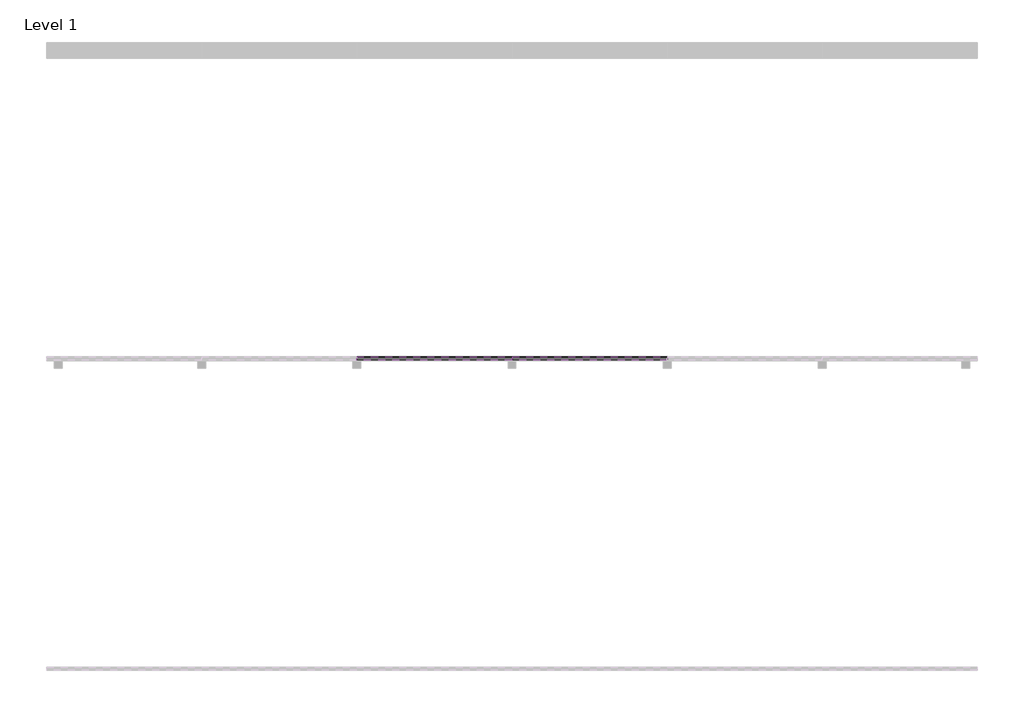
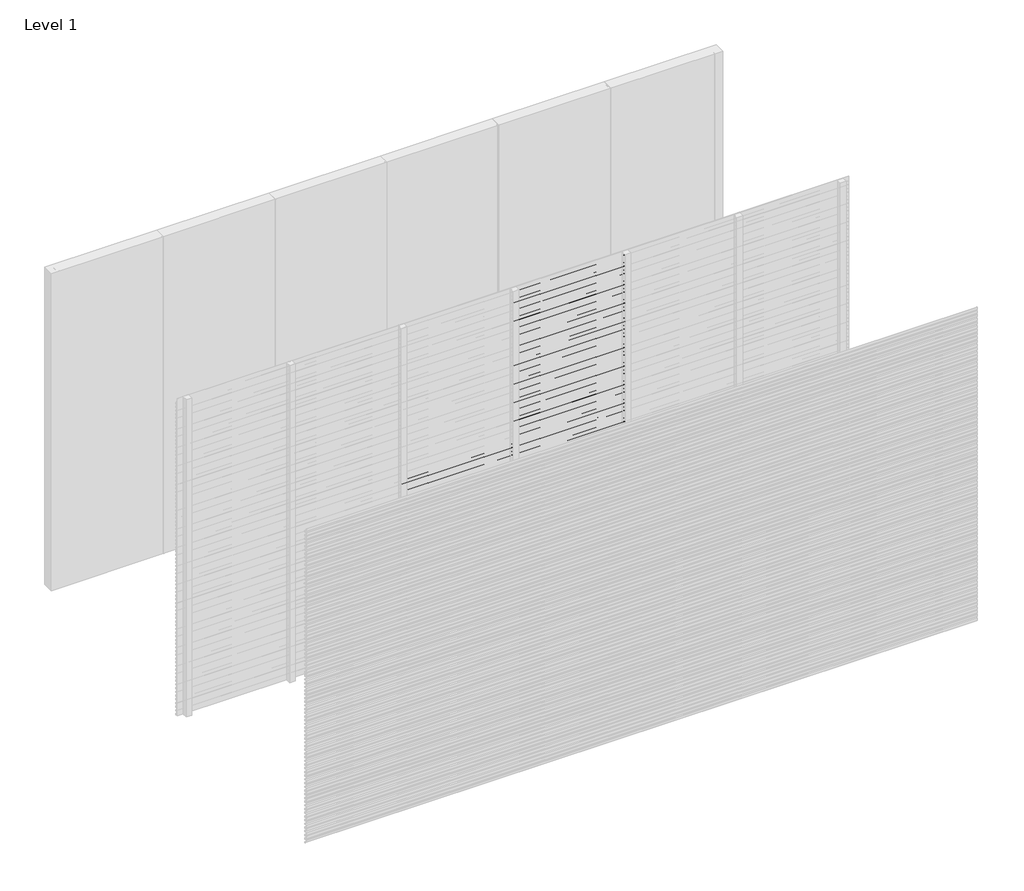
# One storey, part 11 of 25: 97 proxies.
"""IFC4 building model written with IfcOpenShell, lengths in millimetres."""

import ifcopenshell
import ifcopenshell.guid

model = None  # the IFC model being written
_history = None  # IfcOwnerHistory: only IFC2X3 demands one
_inside = {}  # id of a spatial element -> (the spatial element, [elements in it])
_under = {}  # id of a project, library or spatial element -> (it, [spatial elements below it])
_declared = {}  # id of a project -> (the project, [libraries it declares])
_typed = {}  # id of a type object -> (the type object, [elements of that type])
_made_of = {}  # id of a material, layer set ... -> (it, [elements and type objects made of it])


def new_model(schema):
    """Start an empty IFC model of exactly this schema.

    Asked for "IFC4X3", IfcOpenShell would pick the latest addendum, in which some entities
    have other attributes; the version numbers below select the first issue.
    IFC2X3 requires an IfcOwnerHistory on every rooted entity: one is made here for all.
    """
    global model, _history
    if schema == "IFC4X3":
        model = ifcopenshell.file(schema_version=(4, 3, 0, 0))
    else:
        model = ifcopenshell.file(schema=schema)
    _inside.clear()
    _under.clear()
    _declared.clear()
    _typed.clear()
    _made_of.clear()
    _history = None
    if model.schema == "IFC2X3":
        org = make("IfcOrganization", Name="unknown")
        user = make(
            "IfcPersonAndOrganization",
            ThePerson=make("IfcPerson", FamilyName="unknown"),
            TheOrganization=org,
        )
        app = make(
            "IfcApplication",
            ApplicationDeveloper=org,
            Version="unknown",
            ApplicationFullName="unknown",
            ApplicationIdentifier="unknown",
        )
        _history = make(
            "IfcOwnerHistory",
            OwningUser=user,
            OwningApplication=app,
            ChangeAction="ADDED",
            CreationDate=0,
        )
    return model


def make(cls, **values):
    """One entity of the class cls with the attributes given. An attribute that is None is left unset."""
    return model.create_entity(
        cls, **{name: value for name, value in values.items() if value is not None}
    )


def rooted(cls, **values):
    """An entity with a GlobalId (a new one), such as an element, a storey or a relation."""
    return make(cls, GlobalId=ifcopenshell.guid.new(), OwnerHistory=_history, **values)


def si_unit(unit_type, name, prefix=None):
    """IfcSIUnit, for example si_unit("LENGTHUNIT", "METRE", prefix="MILLI")."""
    return make("IfcSIUnit", UnitType=unit_type, Prefix=prefix, Name=name)


def assignment(units):
    """IfcUnitAssignment: the units of a project."""
    return None if units is None else make("IfcUnitAssignment", Units=units)


def point(xyz):
    """IfcCartesianPoint."""
    return None if xyz is None else make("IfcCartesianPoint", Coordinates=xyz)


def direction(xyz):
    """IfcDirection."""
    return None if xyz is None else make("IfcDirection", DirectionRatios=xyz)


def frame(location, z_axis=None, x_axis=None):
    """IfcAxis2Placement3D, a coordinate frame: its origin and axes. An axis left out is left unset."""
    return make(
        "IfcAxis2Placement3D",
        Location=point(location),
        Axis=direction(z_axis),
        RefDirection=direction(x_axis),
    )


def origin():
    """The frame at (0, 0, 0) with its axes left unset."""
    return frame((0.0, 0.0, 0.0))


def place(relative_to, where):
    """IfcLocalPlacement: puts the frame where relative to a parent placement (None: the world)."""
    return make(
        "IfcLocalPlacement", PlacementRelTo=relative_to, RelativePlacement=where
    )


def context(
    kind, dimensions, precision=None, world=None, true_north=None, identifier=None
):
    """IfcGeometricRepresentationContext, for example the 3D "Model" context."""
    return make(
        "IfcGeometricRepresentationContext",
        ContextIdentifier=identifier,
        ContextType=kind,
        CoordinateSpaceDimension=dimensions,
        Precision=precision,
        WorldCoordinateSystem=world,
        TrueNorth=true_north,
    )


def project(units=None, contexts=None):
    """IfcProject with its units and contexts."""
    return rooted(
        "IfcProject",
        Name="project",
        RepresentationContexts=contexts,
        UnitsInContext=assignment(units),
    )


def spatial(cls, under=None, at=None, **own):
    """A site, building, storey or space (cls), placed at a placement, below another one or the project."""
    s = rooted(cls, ObjectPlacement=at, **own)
    if under is not None:
        _under.setdefault(under.id(), (under, []))[1].append(s)
    return s


def polyline(points):
    """IfcPolyline through the points."""
    return make("IfcPolyline", Points=[point(p) for p in points])


def outline(outer, holes=None, kind="AREA"):
    """IfcArbitraryClosedProfileDef: a profile drawn as a closed curve; with holes, ...WithVoids."""
    if holes is None:
        return make("IfcArbitraryClosedProfileDef", ProfileType=kind, OuterCurve=outer)
    return make(
        "IfcArbitraryProfileDefWithVoids",
        ProfileType=kind,
        OuterCurve=outer,
        InnerCurves=holes,
    )


def extrude(swept, where, along, depth):
    """IfcExtrudedAreaSolid: the profile swept, set in the frame where, extruded along a direction by depth."""
    return make(
        "IfcExtrudedAreaSolid",
        SweptArea=swept,
        Position=where,
        ExtrudedDirection=direction(along),
        Depth=depth,
    )


def shape(context_of_items, identifier, shape_type, items):
    """IfcShapeRepresentation: the items that make up one representation, for example the "Body"."""
    return make(
        "IfcShapeRepresentation",
        ContextOfItems=context_of_items,
        RepresentationIdentifier=identifier,
        RepresentationType=shape_type,
        Items=items,
    )


def made_of(thing, what):
    """Note that an element or type object is made of a material, layer set ...; save() writes the relation."""
    if what is not None:
        _made_of.setdefault(what.id(), (what, []))[1].append(thing)
    return thing


def element(
    cls,
    number,
    at=None,
    inside=None,
    cuts=None,
    type_object=None,
    material=None,
    context=None,
    identifier="Body",
    shape_type=None,
    held_by="IfcProductDefinitionShape",
    body=None,
    shapes=None,
    **own,
):
    """One element of the class cls, such as IfcWall. Its Tag is "e" and its number.

    at: its placement. inside: the storey or other place that contains it. cuts: it is an
    opening in that element (IfcRelVoidsElement). A single representation is given by context,
    identifier, shape_type and body (its items); several are given by shapes. held_by: the class
    of the entity that holds the representations. save() writes the other relations.
    """
    e = rooted(cls, Tag="e%d" % number, ObjectPlacement=at, **own)
    if body is not None:
        shapes = [shape(context, identifier, shape_type, body)]
    if shapes is not None:
        e.Representation = make(held_by, Representations=shapes)
    if inside is not None:
        _inside.setdefault(inside.id(), (inside, []))[1].append(e)
    if cuts is not None:
        rooted(
            "IfcRelVoidsElement", RelatingBuildingElement=cuts, RelatedOpeningElement=e
        )
    if type_object is not None:
        _typed.setdefault(type_object.id(), (type_object, []))[1].append(e)
    return made_of(e, material)


def aggregate(whole, parts):
    """IfcRelAggregates: a whole, such as a stair, and the parts it consists of."""
    return rooted("IfcRelAggregates", RelatingObject=whole, RelatedObjects=parts)


def save(model, path):
    """Write the relations noted so far, then the file.

    IfcRelAggregates (storeys below a building ...), IfcRelContainedInSpatialStructure (elements
    in a storey), IfcRelDefinesByType, IfcRelAssociatesMaterial and IfcRelDeclares: one each for
    every whole, place, type object, material and project.
    """
    for whole, parts in _under.values():
        aggregate(whole, parts)
    for where, things in _inside.values():
        rooted(
            "IfcRelContainedInSpatialStructure",
            RelatedElements=things,
            RelatingStructure=where,
        )
    for kind, things in _typed.values():
        rooted("IfcRelDefinesByType", RelatedObjects=things, RelatingType=kind)
    for what, things in _made_of.values():
        rooted("IfcRelAssociatesMaterial", RelatedObjects=things, RelatingMaterial=what)
    for by, libraries in _declared.values():
        rooted("IfcRelDeclares", RelatingContext=by, RelatedDefinitions=libraries)
    model.write(path)


model = new_model("IFC4")

# Units and contexts
model_context = context("Model", 3, world=origin())
ifc_project = project(units=[si_unit("LENGTHUNIT", "METRE", prefix="MILLI")], contexts=[model_context])

# Site, building, storey
site = spatial("IfcSite", under=ifc_project)
building = spatial("IfcBuilding", under=site)
storey = spatial("IfcBuildingStorey", under=building, Name="Level 1", Elevation=0.0)

# Proxies
placement = place(None, origin())
element("IfcBuildingElementProxy", 1, Name="Wall Sweeps", at=placement, inside=storey, context=model_context, shape_type="SweptSolid", body=[
    extrude(outline(polyline([(-11995.0, 1540.0), (-11995.0, 1528.942893), (-11976.0, 1513.0), (-11976.0, 1500.0), (-11997.0, 1517.6210923), (-11997.0, 1540.0), (-11995.0, 1540.0)])), frame((2000.0, 0.0, 0.0), z_axis=(1.0, 0.0, 0.0), x_axis=(0.0, 1.0, 0.0)), (0.0, 0.0, 1.0), 1000.0),
])
element("IfcBuildingElementProxy", 2, Name="Wall Sweeps", at=placement, inside=storey, context=model_context, shape_type="SweptSolid", body=[
    extrude(outline(polyline([(-11995.0, 1505.0), (-11995.0, 1493.942893), (-11976.0, 1478.0), (-11976.0, 1465.0), (-11997.0, 1482.6210923), (-11997.0, 1505.0), (-11995.0, 1505.0)])), frame((2000.0, 0.0, 0.0), z_axis=(1.0, 0.0, 0.0), x_axis=(0.0, 1.0, 0.0)), (0.0, 0.0, 1.0), 1000.0),
])
element("IfcBuildingElementProxy", 3, Name="Wall Sweeps", at=placement, inside=storey, context=model_context, shape_type="SweptSolid", body=[
    extrude(outline(polyline([(-11995.0, 1470.0), (-11995.0, 1458.942893), (-11976.0, 1443.0), (-11976.0, 1430.0), (-11997.0, 1447.6210923), (-11997.0, 1470.0), (-11995.0, 1470.0)])), frame((2000.0, 0.0, 0.0), z_axis=(1.0, 0.0, 0.0), x_axis=(0.0, 1.0, 0.0)), (0.0, 0.0, 1.0), 1000.0),
])
element("IfcBuildingElementProxy", 4, Name="Wall Sweeps", at=placement, inside=storey, context=model_context, shape_type="SweptSolid", body=[
    extrude(outline(polyline([(-11995.0, 1435.0), (-11995.0, 1423.942893), (-11976.0, 1408.0), (-11976.0, 1395.0), (-11997.0, 1412.6210923), (-11997.0, 1435.0), (-11995.0, 1435.0)])), frame((2000.0, 0.0, 0.0), z_axis=(1.0, 0.0, 0.0), x_axis=(0.0, 1.0, 0.0)), (0.0, 0.0, 1.0), 1000.0),
])
element("IfcBuildingElementProxy", 5, Name="Wall Sweeps", at=placement, inside=storey, context=model_context, shape_type="SweptSolid", body=[
    extrude(outline(polyline([(-11995.0, 1400.0), (-11995.0, 1388.942893), (-11976.0, 1373.0), (-11976.0, 1360.0), (-11997.0, 1377.6210923), (-11997.0, 1400.0), (-11995.0, 1400.0)])), frame((2000.0, 0.0, 0.0), z_axis=(1.0, 0.0, 0.0), x_axis=(0.0, 1.0, 0.0)), (0.0, 0.0, 1.0), 1000.0),
])
element("IfcBuildingElementProxy", 6, Name="Wall Sweeps", at=placement, inside=storey, context=model_context, shape_type="SweptSolid", body=[
    extrude(outline(polyline([(-11995.0, 1365.0), (-11995.0, 1353.942893), (-11976.0, 1338.0), (-11976.0, 1325.0), (-11997.0, 1342.6210923), (-11997.0, 1365.0), (-11995.0, 1365.0)])), frame((2000.0, 0.0, 0.0), z_axis=(1.0, 0.0, 0.0), x_axis=(0.0, 1.0, 0.0)), (0.0, 0.0, 1.0), 1000.0),
])
element("IfcBuildingElementProxy", 7, Name="Wall Sweeps", at=placement, inside=storey, context=model_context, shape_type="SweptSolid", body=[
    extrude(outline(polyline([(-11995.0, 1330.0), (-11995.0, 1318.942893), (-11976.0, 1303.0), (-11976.0, 1290.0), (-11997.0, 1307.6210923), (-11997.0, 1330.0), (-11995.0, 1330.0)])), frame((2000.0, 0.0, 0.0), z_axis=(1.0, 0.0, 0.0), x_axis=(0.0, 1.0, 0.0)), (0.0, 0.0, 1.0), 1000.0),
])
element("IfcBuildingElementProxy", 8, Name="Wall Sweeps", at=placement, inside=storey, context=model_context, shape_type="SweptSolid", body=[
    extrude(outline(polyline([(-11995.0, 1295.0), (-11995.0, 1283.942893), (-11976.0, 1268.0), (-11976.0, 1255.0), (-11997.0, 1272.6210923), (-11997.0, 1295.0), (-11995.0, 1295.0)])), frame((2000.0, 0.0, 0.0), z_axis=(1.0, 0.0, 0.0), x_axis=(0.0, 1.0, 0.0)), (0.0, 0.0, 1.0), 1000.0),
])
element("IfcBuildingElementProxy", 9, Name="Wall Sweeps", at=placement, inside=storey, context=model_context, shape_type="SweptSolid", body=[
    extrude(outline(polyline([(-11995.0, 1260.0), (-11995.0, 1248.942893), (-11976.0, 1233.0), (-11976.0, 1220.0), (-11997.0, 1237.6210923), (-11997.0, 1260.0), (-11995.0, 1260.0)])), frame((2000.0, 0.0, 0.0), z_axis=(1.0, 0.0, 0.0), x_axis=(0.0, 1.0, 0.0)), (0.0, 0.0, 1.0), 1000.0),
])
element("IfcBuildingElementProxy", 10, Name="Wall Sweeps", at=placement, inside=storey, context=model_context, shape_type="SweptSolid", body=[
    extrude(outline(polyline([(-11995.0, 1225.0), (-11995.0, 1213.942893), (-11976.0, 1198.0), (-11976.0, 1185.0), (-11997.0, 1202.6210923), (-11997.0, 1225.0), (-11995.0, 1225.0)])), frame((2000.0, 0.0, 0.0), z_axis=(1.0, 0.0, 0.0), x_axis=(0.0, 1.0, 0.0)), (0.0, 0.0, 1.0), 1000.0),
])
element("IfcBuildingElementProxy", 11, Name="Wall Sweeps", at=placement, inside=storey, context=model_context, shape_type="SweptSolid", body=[
    extrude(outline(polyline([(-11995.0, 1190.0), (-11995.0, 1178.942893), (-11976.0, 1163.0), (-11976.0, 1150.0), (-11997.0, 1167.6210923), (-11997.0, 1190.0), (-11995.0, 1190.0)])), frame((2000.0, 0.0, 0.0), z_axis=(1.0, 0.0, 0.0), x_axis=(0.0, 1.0, 0.0)), (0.0, 0.0, 1.0), 1000.0),
])
element("IfcBuildingElementProxy", 12, Name="Wall Sweeps", at=placement, inside=storey, context=model_context, shape_type="SweptSolid", body=[
    extrude(outline(polyline([(-11995.0, 1155.0), (-11995.0, 1143.942893), (-11976.0, 1128.0), (-11976.0, 1115.0), (-11997.0, 1132.6210923), (-11997.0, 1155.0), (-11995.0, 1155.0)])), frame((2000.0, 0.0, 0.0), z_axis=(1.0, 0.0, 0.0), x_axis=(0.0, 1.0, 0.0)), (0.0, 0.0, 1.0), 1000.0),
])
element("IfcBuildingElementProxy", 13, Name="Wall Sweeps", at=placement, inside=storey, context=model_context, shape_type="SweptSolid", body=[
    extrude(outline(polyline([(-11995.0, 1120.0), (-11995.0, 1108.942893), (-11976.0, 1093.0), (-11976.0, 1080.0), (-11997.0, 1097.6210923), (-11997.0, 1120.0), (-11995.0, 1120.0)])), frame((2000.0, 0.0, 0.0), z_axis=(1.0, 0.0, 0.0), x_axis=(0.0, 1.0, 0.0)), (0.0, 0.0, 1.0), 1000.0),
])
element("IfcBuildingElementProxy", 14, Name="Wall Sweeps", at=placement, inside=storey, context=model_context, shape_type="SweptSolid", body=[
    extrude(outline(polyline([(-11995.0, 1085.0), (-11995.0, 1073.942893), (-11976.0, 1058.0), (-11976.0, 1045.0), (-11997.0, 1062.6210923), (-11997.0, 1085.0), (-11995.0, 1085.0)])), frame((2000.0, 0.0, 0.0), z_axis=(1.0, 0.0, 0.0), x_axis=(0.0, 1.0, 0.0)), (0.0, 0.0, 1.0), 1000.0),
])
element("IfcBuildingElementProxy", 15, Name="Wall Sweeps", at=placement, inside=storey, context=model_context, shape_type="SweptSolid", body=[
    extrude(outline(polyline([(-11995.0, 1050.0), (-11995.0, 1038.942893), (-11976.0, 1023.0), (-11976.0, 1010.0), (-11997.0, 1027.6210923), (-11997.0, 1050.0), (-11995.0, 1050.0)])), frame((2000.0, 0.0, 0.0), z_axis=(1.0, 0.0, 0.0), x_axis=(0.0, 1.0, 0.0)), (0.0, 0.0, 1.0), 1000.0),
])
element("IfcBuildingElementProxy", 16, Name="Wall Sweeps", at=placement, inside=storey, context=model_context, shape_type="SweptSolid", body=[
    extrude(outline(polyline([(-11995.0, 1015.0), (-11995.0, 1003.942893), (-11976.0, 988.0), (-11976.0, 975.0), (-11997.0, 992.6210923), (-11997.0, 1015.0), (-11995.0, 1015.0)])), frame((2000.0, 0.0, 0.0), z_axis=(1.0, 0.0, 0.0), x_axis=(0.0, 1.0, 0.0)), (0.0, 0.0, 1.0), 1000.0),
])
element("IfcBuildingElementProxy", 17, Name="Wall Sweeps", at=placement, inside=storey, context=model_context, shape_type="SweptSolid", body=[
    extrude(outline(polyline([(-11995.0, 980.0), (-11995.0, 968.942893), (-11976.0, 953.0), (-11976.0, 940.0), (-11997.0, 957.6210923), (-11997.0, 980.0), (-11995.0, 980.0)])), frame((2000.0, 0.0, 0.0), z_axis=(1.0, 0.0, 0.0), x_axis=(0.0, 1.0, 0.0)), (0.0, 0.0, 1.0), 1000.0),
])
element("IfcBuildingElementProxy", 18, Name="Wall Sweeps", at=placement, inside=storey, context=model_context, shape_type="SweptSolid", body=[
    extrude(outline(polyline([(-11995.0, 945.0), (-11995.0, 933.942893), (-11976.0, 918.0), (-11976.0, 905.0), (-11997.0, 922.6210923), (-11997.0, 945.0), (-11995.0, 945.0)])), frame((2000.0, 0.0, 0.0), z_axis=(1.0, 0.0, 0.0), x_axis=(0.0, 1.0, 0.0)), (0.0, 0.0, 1.0), 1000.0),
])
element("IfcBuildingElementProxy", 19, Name="Wall Sweeps", at=placement, inside=storey, context=model_context, shape_type="SweptSolid", body=[
    extrude(outline(polyline([(-11995.0, 910.0), (-11995.0, 898.942893), (-11976.0, 883.0), (-11976.0, 870.0), (-11997.0, 887.6210923), (-11997.0, 910.0), (-11995.0, 910.0)])), frame((2000.0, 0.0, 0.0), z_axis=(1.0, 0.0, 0.0), x_axis=(0.0, 1.0, 0.0)), (0.0, 0.0, 1.0), 1000.0),
])
element("IfcBuildingElementProxy", 20, Name="Wall Sweeps", at=placement, inside=storey, context=model_context, shape_type="SweptSolid", body=[
    extrude(outline(polyline([(-11995.0, 875.0), (-11995.0, 863.942893), (-11976.0, 848.0), (-11976.0, 835.0), (-11997.0, 852.6210923), (-11997.0, 875.0), (-11995.0, 875.0)])), frame((2000.0, 0.0, 0.0), z_axis=(1.0, 0.0, 0.0), x_axis=(0.0, 1.0, 0.0)), (0.0, 0.0, 1.0), 1000.0),
])
element("IfcBuildingElementProxy", 21, Name="Wall Sweeps", at=placement, inside=storey, context=model_context, shape_type="SweptSolid", body=[
    extrude(outline(polyline([(-11995.0, 840.0), (-11995.0, 828.942893), (-11976.0, 813.0), (-11976.0, 800.0), (-11997.0, 817.6210923), (-11997.0, 840.0), (-11995.0, 840.0)])), frame((2000.0, 0.0, 0.0), z_axis=(1.0, 0.0, 0.0), x_axis=(0.0, 1.0, 0.0)), (0.0, 0.0, 1.0), 1000.0),
])
element("IfcBuildingElementProxy", 22, Name="Wall Sweeps", at=placement, inside=storey, context=model_context, shape_type="SweptSolid", body=[
    extrude(outline(polyline([(-11995.0, 805.0), (-11995.0, 793.942893), (-11976.0, 778.0), (-11976.0, 765.0), (-11997.0, 782.6210923), (-11997.0, 805.0), (-11995.0, 805.0)])), frame((2000.0, 0.0, 0.0), z_axis=(1.0, 0.0, 0.0), x_axis=(0.0, 1.0, 0.0)), (0.0, 0.0, 1.0), 1000.0),
])
element("IfcBuildingElementProxy", 23, Name="Wall Sweeps", at=placement, inside=storey, context=model_context, shape_type="SweptSolid", body=[
    extrude(outline(polyline([(-11995.0, 770.0), (-11995.0, 758.942893), (-11976.0, 743.0), (-11976.0, 730.0), (-11997.0, 747.6210923), (-11997.0, 770.0), (-11995.0, 770.0)])), frame((2000.0, 0.0, 0.0), z_axis=(1.0, 0.0, 0.0), x_axis=(0.0, 1.0, 0.0)), (0.0, 0.0, 1.0), 1000.0),
])
element("IfcBuildingElementProxy", 24, Name="Wall Sweeps", at=placement, inside=storey, context=model_context, shape_type="SweptSolid", body=[
    extrude(outline(polyline([(-11995.0, 735.0), (-11995.0, 723.942893), (-11976.0, 708.0), (-11976.0, 695.0), (-11997.0, 712.6210923), (-11997.0, 735.0), (-11995.0, 735.0)])), frame((2000.0, 0.0, 0.0), z_axis=(1.0, 0.0, 0.0), x_axis=(0.0, 1.0, 0.0)), (0.0, 0.0, 1.0), 1000.0),
])
element("IfcBuildingElementProxy", 25, Name="Wall Sweeps", at=placement, inside=storey, context=model_context, shape_type="SweptSolid", body=[
    extrude(outline(polyline([(-11995.0, 700.0), (-11995.0, 688.942893), (-11976.0, 673.0), (-11976.0, 660.0), (-11997.0, 677.6210923), (-11997.0, 700.0), (-11995.0, 700.0)])), frame((2000.0, 0.0, 0.0), z_axis=(1.0, 0.0, 0.0), x_axis=(0.0, 1.0, 0.0)), (0.0, 0.0, 1.0), 1000.0),
])
element("IfcBuildingElementProxy", 26, Name="Wall Sweeps", at=placement, inside=storey, context=model_context, shape_type="SweptSolid", body=[
    extrude(outline(polyline([(-11995.0, 665.0), (-11995.0, 653.942893), (-11976.0, 638.0), (-11976.0, 625.0), (-11997.0, 642.6210923), (-11997.0, 665.0), (-11995.0, 665.0)])), frame((2000.0, 0.0, 0.0), z_axis=(1.0, 0.0, 0.0), x_axis=(0.0, 1.0, 0.0)), (0.0, 0.0, 1.0), 1000.0),
])
element("IfcBuildingElementProxy", 27, Name="Wall Sweeps", at=placement, inside=storey, context=model_context, shape_type="SweptSolid", body=[
    extrude(outline(polyline([(-11995.0, 630.0), (-11995.0, 618.942893), (-11976.0, 603.0), (-11976.0, 590.0), (-11997.0, 607.6210923), (-11997.0, 630.0), (-11995.0, 630.0)])), frame((2000.0, 0.0, 0.0), z_axis=(1.0, 0.0, 0.0), x_axis=(0.0, 1.0, 0.0)), (0.0, 0.0, 1.0), 1000.0),
])
element("IfcBuildingElementProxy", 28, Name="Wall Sweeps", at=placement, inside=storey, context=model_context, shape_type="SweptSolid", body=[
    extrude(outline(polyline([(-11995.0, 595.0), (-11995.0, 583.942893), (-11976.0, 568.0), (-11976.0, 555.0), (-11997.0, 572.6210923), (-11997.0, 595.0), (-11995.0, 595.0)])), frame((2000.0, 0.0, 0.0), z_axis=(1.0, 0.0, 0.0), x_axis=(0.0, 1.0, 0.0)), (0.0, 0.0, 1.0), 1000.0),
])
element("IfcBuildingElementProxy", 29, Name="Wall Sweeps", at=placement, inside=storey, context=model_context, shape_type="SweptSolid", body=[
    extrude(outline(polyline([(-11995.0, 560.0), (-11995.0, 548.942893), (-11976.0, 533.0), (-11976.0, 520.0), (-11997.0, 537.6210923), (-11997.0, 560.0), (-11995.0, 560.0)])), frame((2000.0, 0.0, 0.0), z_axis=(1.0, 0.0, 0.0), x_axis=(0.0, 1.0, 0.0)), (0.0, 0.0, 1.0), 1000.0),
])
element("IfcBuildingElementProxy", 30, Name="Wall Sweeps", at=placement, inside=storey, context=model_context, shape_type="SweptSolid", body=[
    extrude(outline(polyline([(-11995.0, 525.0), (-11995.0, 513.942893), (-11976.0, 498.0), (-11976.0, 485.0), (-11997.0, 502.6210923), (-11997.0, 525.0), (-11995.0, 525.0)])), frame((2000.0, 0.0, 0.0), z_axis=(1.0, 0.0, 0.0), x_axis=(0.0, 1.0, 0.0)), (0.0, 0.0, 1.0), 1000.0),
])
element("IfcBuildingElementProxy", 31, Name="Wall Sweeps", at=placement, inside=storey, context=model_context, shape_type="SweptSolid", body=[
    extrude(outline(polyline([(-11995.0, 490.0), (-11995.0, 478.942893), (-11976.0, 463.0), (-11976.0, 450.0), (-11997.0, 467.6210923), (-11997.0, 490.0), (-11995.0, 490.0)])), frame((2000.0, 0.0, 0.0), z_axis=(1.0, 0.0, 0.0), x_axis=(0.0, 1.0, 0.0)), (0.0, 0.0, 1.0), 1000.0),
])
element("IfcBuildingElementProxy", 32, Name="Wall Sweeps", at=placement, inside=storey, context=model_context, shape_type="SweptSolid", body=[
    extrude(outline(polyline([(-11995.0, 455.0), (-11995.0, 443.942893), (-11976.0, 428.0), (-11976.0, 415.0), (-11997.0, 432.6210923), (-11997.0, 455.0), (-11995.0, 455.0)])), frame((2000.0, 0.0, 0.0), z_axis=(1.0, 0.0, 0.0), x_axis=(0.0, 1.0, 0.0)), (0.0, 0.0, 1.0), 1000.0),
])
element("IfcBuildingElementProxy", 33, Name="Wall Sweeps", at=placement, inside=storey, context=model_context, shape_type="SweptSolid", body=[
    extrude(outline(polyline([(-11995.0, 420.0), (-11995.0, 408.942893), (-11976.0, 393.0), (-11976.0, 380.0), (-11997.0, 397.6210923), (-11997.0, 420.0), (-11995.0, 420.0)])), frame((2000.0, 0.0, 0.0), z_axis=(1.0, 0.0, 0.0), x_axis=(0.0, 1.0, 0.0)), (0.0, 0.0, 1.0), 1000.0),
])
element("IfcBuildingElementProxy", 34, Name="Wall Sweeps", at=placement, inside=storey, context=model_context, shape_type="SweptSolid", body=[
    extrude(outline(polyline([(-11995.0, 385.0), (-11995.0, 373.942893), (-11976.0, 358.0), (-11976.0, 345.0), (-11997.0, 362.6210923), (-11997.0, 385.0), (-11995.0, 385.0)])), frame((2000.0, 0.0, 0.0), z_axis=(1.0, 0.0, 0.0), x_axis=(0.0, 1.0, 0.0)), (0.0, 0.0, 1.0), 1000.0),
])
element("IfcBuildingElementProxy", 35, Name="Wall Sweeps", at=placement, inside=storey, context=model_context, shape_type="SweptSolid", body=[
    extrude(outline(polyline([(-11995.0, 350.0), (-11995.0, 338.942893), (-11976.0, 323.0), (-11976.0, 310.0), (-11997.0, 327.6210923), (-11997.0, 350.0), (-11995.0, 350.0)])), frame((2000.0, 0.0, 0.0), z_axis=(1.0, 0.0, 0.0), x_axis=(0.0, 1.0, 0.0)), (0.0, 0.0, 1.0), 1000.0),
])
element("IfcBuildingElementProxy", 36, Name="Wall Sweeps", at=placement, inside=storey, context=model_context, shape_type="SweptSolid", body=[
    extrude(outline(polyline([(-11995.0, 315.0), (-11995.0, 303.942893), (-11976.0, 288.0), (-11976.0, 275.0), (-11997.0, 292.6210923), (-11997.0, 315.0), (-11995.0, 315.0)])), frame((2000.0, 0.0, 0.0), z_axis=(1.0, 0.0, 0.0), x_axis=(0.0, 1.0, 0.0)), (0.0, 0.0, 1.0), 1000.0),
])
element("IfcBuildingElementProxy", 37, Name="Wall Sweeps", at=placement, inside=storey, context=model_context, shape_type="SweptSolid", body=[
    extrude(outline(polyline([(-11995.0, 280.0), (-11995.0, 268.942893), (-11976.0, 253.0), (-11976.0, 240.0), (-11997.0, 257.6210923), (-11997.0, 280.0), (-11995.0, 280.0)])), frame((2000.0, 0.0, 0.0), z_axis=(1.0, 0.0, 0.0), x_axis=(0.0, 1.0, 0.0)), (0.0, 0.0, 1.0), 1000.0),
])
element("IfcBuildingElementProxy", 38, Name="Wall Sweeps", at=placement, inside=storey, context=model_context, shape_type="SweptSolid", body=[
    extrude(outline(polyline([(-11995.0, 245.0), (-11995.0, 233.942893), (-11976.0, 218.0), (-11976.0, 205.0), (-11997.0, 222.6210923), (-11997.0, 245.0), (-11995.0, 245.0)])), frame((2000.0, 0.0, 0.0), z_axis=(1.0, 0.0, 0.0), x_axis=(0.0, 1.0, 0.0)), (0.0, 0.0, 1.0), 1000.0),
])
element("IfcBuildingElementProxy", 39, Name="Wall Sweeps", at=placement, inside=storey, context=model_context, shape_type="SweptSolid", body=[
    extrude(outline(polyline([(-11995.0, 210.0), (-11995.0, 198.942893), (-11976.0, 183.0), (-11976.0, 170.0), (-11997.0, 187.6210923), (-11997.0, 210.0), (-11995.0, 210.0)])), frame((2000.0, 0.0, 0.0), z_axis=(1.0, 0.0, 0.0), x_axis=(0.0, 1.0, 0.0)), (0.0, 0.0, 1.0), 1000.0),
])
element("IfcBuildingElementProxy", 40, Name="Wall Sweeps", at=placement, inside=storey, context=model_context, shape_type="SweptSolid", body=[
    extrude(outline(polyline([(-11995.0, 175.0), (-11995.0, 163.942893), (-11976.0, 148.0), (-11976.0, 135.0), (-11997.0, 152.6210923), (-11997.0, 175.0), (-11995.0, 175.0)])), frame((2000.0, 0.0, 0.0), z_axis=(1.0, 0.0, 0.0), x_axis=(0.0, 1.0, 0.0)), (0.0, 0.0, 1.0), 1000.0),
])
element("IfcBuildingElementProxy", 41, Name="Wall Sweeps", at=placement, inside=storey, context=model_context, shape_type="SweptSolid", body=[
    extrude(outline(polyline([(-11995.0, 140.0), (-11995.0, 128.942893), (-11976.0, 113.0), (-11976.0, 100.0), (-11997.0, 117.6210923), (-11997.0, 140.0), (-11995.0, 140.0)])), frame((2000.0, 0.0, 0.0), z_axis=(1.0, 0.0, 0.0), x_axis=(0.0, 1.0, 0.0)), (0.0, 0.0, 1.0), 1000.0),
])
element("IfcBuildingElementProxy", 42, Name="Wall Sweeps", at=placement, inside=storey, context=model_context, shape_type="SweptSolid", body=[
    extrude(outline(polyline([(-11995.0, 105.0), (-11995.0, 93.942893), (-11976.0, 78.0), (-11976.0, 65.0), (-11997.0, 82.6210923), (-11997.0, 105.0), (-11995.0, 105.0)])), frame((2000.0, 0.0, 0.0), z_axis=(1.0, 0.0, 0.0), x_axis=(0.0, 1.0, 0.0)), (0.0, 0.0, 1.0), 1000.0),
])
element("IfcBuildingElementProxy", 43, Name="Wall Sweeps", at=placement, inside=storey, context=model_context, shape_type="SweptSolid", body=[
    extrude(outline(polyline([(-11995.0, 70.0), (-11995.0, 58.942893), (-11976.0, 43.0), (-11976.0, 30.0), (-11997.0, 47.6210923), (-11997.0, 70.0), (-11995.0, 70.0)])), frame((2000.0, 0.0, 0.0), z_axis=(1.0, 0.0, 0.0), x_axis=(0.0, 1.0, 0.0)), (0.0, 0.0, 1.0), 1000.0),
])
element("IfcBuildingElementProxy", 44, Name="Wall Sweeps", at=placement, inside=storey, context=model_context, shape_type="SweptSolid", body=[
    extrude(outline(polyline([(-11995.0, 35.0), (-11995.0, 23.942893), (-11976.0, 8.0), (-11976.0, -5.0), (-11997.0, 12.6210923), (-11997.0, 35.0), (-11995.0, 35.0)])), frame((2000.0, 0.0, 0.0), z_axis=(1.0, 0.0, 0.0), x_axis=(0.0, 1.0, 0.0)), (0.0, 0.0, 1.0), 1000.0),
])
element("IfcBuildingElementProxy", 45, Name="Wall Sweeps", at=placement, inside=storey, context=model_context, shape_type="SweptSolid", body=[
    extrude(outline(polyline([(-11995.0, 2975.0), (-11995.0, 2963.942893), (-11976.0, 2948.0), (-11976.0, 2935.0), (-11997.0, 2952.6210923), (-11997.0, 2975.0), (-11995.0, 2975.0)])), frame((3000.0, 0.0, 0.0), z_axis=(1.0, 0.0, 0.0), x_axis=(0.0, 1.0, 0.0)), (0.0, 0.0, 1.0), 1000.0),
])
element("IfcBuildingElementProxy", 46, Name="Wall Sweeps", at=placement, inside=storey, context=model_context, shape_type="SweptSolid", body=[
    extrude(outline(polyline([(-11995.0, 2940.0), (-11995.0, 2928.942893), (-11976.0, 2913.0), (-11976.0, 2900.0), (-11997.0, 2917.6210923), (-11997.0, 2940.0), (-11995.0, 2940.0)])), frame((3000.0, 0.0, 0.0), z_axis=(1.0, 0.0, 0.0), x_axis=(0.0, 1.0, 0.0)), (0.0, 0.0, 1.0), 1000.0),
])
element("IfcBuildingElementProxy", 47, Name="Wall Sweeps", at=placement, inside=storey, context=model_context, shape_type="SweptSolid", body=[
    extrude(outline(polyline([(-11995.0, 2905.0), (-11995.0, 2893.942893), (-11976.0, 2878.0), (-11976.0, 2865.0), (-11997.0, 2882.6210923), (-11997.0, 2905.0), (-11995.0, 2905.0)])), frame((3000.0, 0.0, 0.0), z_axis=(1.0, 0.0, 0.0), x_axis=(0.0, 1.0, 0.0)), (0.0, 0.0, 1.0), 1000.0),
])
element("IfcBuildingElementProxy", 48, Name="Wall Sweeps", at=placement, inside=storey, context=model_context, shape_type="SweptSolid", body=[
    extrude(outline(polyline([(-11995.0, 2870.0), (-11995.0, 2858.942893), (-11976.0, 2843.0), (-11976.0, 2830.0), (-11997.0, 2847.6210923), (-11997.0, 2870.0), (-11995.0, 2870.0)])), frame((3000.0, 0.0, 0.0), z_axis=(1.0, 0.0, 0.0), x_axis=(0.0, 1.0, 0.0)), (0.0, 0.0, 1.0), 1000.0),
])
element("IfcBuildingElementProxy", 49, Name="Wall Sweeps", at=placement, inside=storey, context=model_context, shape_type="SweptSolid", body=[
    extrude(outline(polyline([(-11995.0, 2835.0), (-11995.0, 2823.942893), (-11976.0, 2808.0), (-11976.0, 2795.0), (-11997.0, 2812.6210923), (-11997.0, 2835.0), (-11995.0, 2835.0)])), frame((3000.0, 0.0, 0.0), z_axis=(1.0, 0.0, 0.0), x_axis=(0.0, 1.0, 0.0)), (0.0, 0.0, 1.0), 1000.0),
])
element("IfcBuildingElementProxy", 50, Name="Wall Sweeps", at=placement, inside=storey, context=model_context, shape_type="SweptSolid", body=[
    extrude(outline(polyline([(-11995.0, 2800.0), (-11995.0, 2788.942893), (-11976.0, 2773.0), (-11976.0, 2760.0), (-11997.0, 2777.6210923), (-11997.0, 2800.0), (-11995.0, 2800.0)])), frame((3000.0, 0.0, 0.0), z_axis=(1.0, 0.0, 0.0), x_axis=(0.0, 1.0, 0.0)), (0.0, 0.0, 1.0), 1000.0),
])
element("IfcBuildingElementProxy", 51, Name="Wall Sweeps", at=placement, inside=storey, context=model_context, shape_type="SweptSolid", body=[
    extrude(outline(polyline([(-11995.0, 2765.0), (-11995.0, 2753.942893), (-11976.0, 2738.0), (-11976.0, 2725.0), (-11997.0, 2742.6210923), (-11997.0, 2765.0), (-11995.0, 2765.0)])), frame((3000.0, 0.0, 0.0), z_axis=(1.0, 0.0, 0.0), x_axis=(0.0, 1.0, 0.0)), (0.0, 0.0, 1.0), 1000.0),
])
element("IfcBuildingElementProxy", 52, Name="Wall Sweeps", at=placement, inside=storey, context=model_context, shape_type="SweptSolid", body=[
    extrude(outline(polyline([(-11995.0, 2730.0), (-11995.0, 2718.942893), (-11976.0, 2703.0), (-11976.0, 2690.0), (-11997.0, 2707.6210923), (-11997.0, 2730.0), (-11995.0, 2730.0)])), frame((3000.0, 0.0, 0.0), z_axis=(1.0, 0.0, 0.0), x_axis=(0.0, 1.0, 0.0)), (0.0, 0.0, 1.0), 1000.0),
])
element("IfcBuildingElementProxy", 53, Name="Wall Sweeps", at=placement, inside=storey, context=model_context, shape_type="SweptSolid", body=[
    extrude(outline(polyline([(-11995.0, 2695.0), (-11995.0, 2683.942893), (-11976.0, 2668.0), (-11976.0, 2655.0), (-11997.0, 2672.6210923), (-11997.0, 2695.0), (-11995.0, 2695.0)])), frame((3000.0, 0.0, 0.0), z_axis=(1.0, 0.0, 0.0), x_axis=(0.0, 1.0, 0.0)), (0.0, 0.0, 1.0), 1000.0),
])
element("IfcBuildingElementProxy", 54, Name="Wall Sweeps", at=placement, inside=storey, context=model_context, shape_type="SweptSolid", body=[
    extrude(outline(polyline([(-11995.0, 2660.0), (-11995.0, 2648.942893), (-11976.0, 2633.0), (-11976.0, 2620.0), (-11997.0, 2637.6210923), (-11997.0, 2660.0), (-11995.0, 2660.0)])), frame((3000.0, 0.0, 0.0), z_axis=(1.0, 0.0, 0.0), x_axis=(0.0, 1.0, 0.0)), (0.0, 0.0, 1.0), 1000.0),
])
element("IfcBuildingElementProxy", 55, Name="Wall Sweeps", at=placement, inside=storey, context=model_context, shape_type="SweptSolid", body=[
    extrude(outline(polyline([(-11995.0, 2625.0), (-11995.0, 2613.942893), (-11976.0, 2598.0), (-11976.0, 2585.0), (-11997.0, 2602.6210923), (-11997.0, 2625.0), (-11995.0, 2625.0)])), frame((3000.0, 0.0, 0.0), z_axis=(1.0, 0.0, 0.0), x_axis=(0.0, 1.0, 0.0)), (0.0, 0.0, 1.0), 1000.0),
])
element("IfcBuildingElementProxy", 56, Name="Wall Sweeps", at=placement, inside=storey, context=model_context, shape_type="SweptSolid", body=[
    extrude(outline(polyline([(-11995.0, 2590.0), (-11995.0, 2578.942893), (-11976.0, 2563.0), (-11976.0, 2550.0), (-11997.0, 2567.6210923), (-11997.0, 2590.0), (-11995.0, 2590.0)])), frame((3000.0, 0.0, 0.0), z_axis=(1.0, 0.0, 0.0), x_axis=(0.0, 1.0, 0.0)), (0.0, 0.0, 1.0), 1000.0),
])
element("IfcBuildingElementProxy", 57, Name="Wall Sweeps", at=placement, inside=storey, context=model_context, shape_type="SweptSolid", body=[
    extrude(outline(polyline([(-11995.0, 2555.0), (-11995.0, 2543.942893), (-11976.0, 2528.0), (-11976.0, 2515.0), (-11997.0, 2532.6210923), (-11997.0, 2555.0), (-11995.0, 2555.0)])), frame((3000.0, 0.0, 0.0), z_axis=(1.0, 0.0, 0.0), x_axis=(0.0, 1.0, 0.0)), (0.0, 0.0, 1.0), 1000.0),
])
element("IfcBuildingElementProxy", 58, Name="Wall Sweeps", at=placement, inside=storey, context=model_context, shape_type="SweptSolid", body=[
    extrude(outline(polyline([(-11995.0, 2520.0), (-11995.0, 2508.942893), (-11976.0, 2493.0), (-11976.0, 2480.0), (-11997.0, 2497.6210923), (-11997.0, 2520.0), (-11995.0, 2520.0)])), frame((3000.0, 0.0, 0.0), z_axis=(1.0, 0.0, 0.0), x_axis=(0.0, 1.0, 0.0)), (0.0, 0.0, 1.0), 1000.0),
])
element("IfcBuildingElementProxy", 59, Name="Wall Sweeps", at=placement, inside=storey, context=model_context, shape_type="SweptSolid", body=[
    extrude(outline(polyline([(-11995.0, 2485.0), (-11995.0, 2473.942893), (-11976.0, 2458.0), (-11976.0, 2445.0), (-11997.0, 2462.6210923), (-11997.0, 2485.0), (-11995.0, 2485.0)])), frame((3000.0, 0.0, 0.0), z_axis=(1.0, 0.0, 0.0), x_axis=(0.0, 1.0, 0.0)), (0.0, 0.0, 1.0), 1000.0),
])
element("IfcBuildingElementProxy", 60, Name="Wall Sweeps", at=placement, inside=storey, context=model_context, shape_type="SweptSolid", body=[
    extrude(outline(polyline([(-11995.0, 2450.0), (-11995.0, 2438.942893), (-11976.0, 2423.0), (-11976.0, 2410.0), (-11997.0, 2427.6210923), (-11997.0, 2450.0), (-11995.0, 2450.0)])), frame((3000.0, 0.0, 0.0), z_axis=(1.0, 0.0, 0.0), x_axis=(0.0, 1.0, 0.0)), (0.0, 0.0, 1.0), 1000.0),
])
element("IfcBuildingElementProxy", 61, Name="Wall Sweeps", at=placement, inside=storey, context=model_context, shape_type="SweptSolid", body=[
    extrude(outline(polyline([(-11995.0, 2415.0), (-11995.0, 2403.942893), (-11976.0, 2388.0), (-11976.0, 2375.0), (-11997.0, 2392.6210923), (-11997.0, 2415.0), (-11995.0, 2415.0)])), frame((3000.0, 0.0, 0.0), z_axis=(1.0, 0.0, 0.0), x_axis=(0.0, 1.0, 0.0)), (0.0, 0.0, 1.0), 1000.0),
])
element("IfcBuildingElementProxy", 62, Name="Wall Sweeps", at=placement, inside=storey, context=model_context, shape_type="SweptSolid", body=[
    extrude(outline(polyline([(-11995.0, 2380.0), (-11995.0, 2368.942893), (-11976.0, 2353.0), (-11976.0, 2340.0), (-11997.0, 2357.6210923), (-11997.0, 2380.0), (-11995.0, 2380.0)])), frame((3000.0, 0.0, 0.0), z_axis=(1.0, 0.0, 0.0), x_axis=(0.0, 1.0, 0.0)), (0.0, 0.0, 1.0), 1000.0),
])
element("IfcBuildingElementProxy", 63, Name="Wall Sweeps", at=placement, inside=storey, context=model_context, shape_type="SweptSolid", body=[
    extrude(outline(polyline([(-11995.0, 2345.0), (-11995.0, 2333.942893), (-11976.0, 2318.0), (-11976.0, 2305.0), (-11997.0, 2322.6210923), (-11997.0, 2345.0), (-11995.0, 2345.0)])), frame((3000.0, 0.0, 0.0), z_axis=(1.0, 0.0, 0.0), x_axis=(0.0, 1.0, 0.0)), (0.0, 0.0, 1.0), 1000.0),
])
element("IfcBuildingElementProxy", 64, Name="Wall Sweeps", at=placement, inside=storey, context=model_context, shape_type="SweptSolid", body=[
    extrude(outline(polyline([(-11995.0, 2310.0), (-11995.0, 2298.942893), (-11976.0, 2283.0), (-11976.0, 2270.0), (-11997.0, 2287.6210923), (-11997.0, 2310.0), (-11995.0, 2310.0)])), frame((3000.0, 0.0, 0.0), z_axis=(1.0, 0.0, 0.0), x_axis=(0.0, 1.0, 0.0)), (0.0, 0.0, 1.0), 1000.0),
])
element("IfcBuildingElementProxy", 65, Name="Wall Sweeps", at=placement, inside=storey, context=model_context, shape_type="SweptSolid", body=[
    extrude(outline(polyline([(-11995.0, 2275.0), (-11995.0, 2263.942893), (-11976.0, 2248.0), (-11976.0, 2235.0), (-11997.0, 2252.6210923), (-11997.0, 2275.0), (-11995.0, 2275.0)])), frame((3000.0, 0.0, 0.0), z_axis=(1.0, 0.0, 0.0), x_axis=(0.0, 1.0, 0.0)), (0.0, 0.0, 1.0), 1000.0),
])
element("IfcBuildingElementProxy", 66, Name="Wall Sweeps", at=placement, inside=storey, context=model_context, shape_type="SweptSolid", body=[
    extrude(outline(polyline([(-11995.0, 2240.0), (-11995.0, 2228.942893), (-11976.0, 2213.0), (-11976.0, 2200.0), (-11997.0, 2217.6210923), (-11997.0, 2240.0), (-11995.0, 2240.0)])), frame((3000.0, 0.0, 0.0), z_axis=(1.0, 0.0, 0.0), x_axis=(0.0, 1.0, 0.0)), (0.0, 0.0, 1.0), 1000.0),
])
element("IfcBuildingElementProxy", 67, Name="Wall Sweeps", at=placement, inside=storey, context=model_context, shape_type="SweptSolid", body=[
    extrude(outline(polyline([(-11995.0, 2205.0), (-11995.0, 2193.942893), (-11976.0, 2178.0), (-11976.0, 2165.0), (-11997.0, 2182.6210923), (-11997.0, 2205.0), (-11995.0, 2205.0)])), frame((3000.0, 0.0, 0.0), z_axis=(1.0, 0.0, 0.0), x_axis=(0.0, 1.0, 0.0)), (0.0, 0.0, 1.0), 1000.0),
])
element("IfcBuildingElementProxy", 68, Name="Wall Sweeps", at=placement, inside=storey, context=model_context, shape_type="SweptSolid", body=[
    extrude(outline(polyline([(-11995.0, 2170.0), (-11995.0, 2158.942893), (-11976.0, 2143.0), (-11976.0, 2130.0), (-11997.0, 2147.6210923), (-11997.0, 2170.0), (-11995.0, 2170.0)])), frame((3000.0, 0.0, 0.0), z_axis=(1.0, 0.0, 0.0), x_axis=(0.0, 1.0, 0.0)), (0.0, 0.0, 1.0), 1000.0),
])
element("IfcBuildingElementProxy", 69, Name="Wall Sweeps", at=placement, inside=storey, context=model_context, shape_type="SweptSolid", body=[
    extrude(outline(polyline([(-11995.0, 2135.0), (-11995.0, 2123.942893), (-11976.0, 2108.0), (-11976.0, 2095.0), (-11997.0, 2112.6210923), (-11997.0, 2135.0), (-11995.0, 2135.0)])), frame((3000.0, 0.0, 0.0), z_axis=(1.0, 0.0, 0.0), x_axis=(0.0, 1.0, 0.0)), (0.0, 0.0, 1.0), 1000.0),
])
element("IfcBuildingElementProxy", 70, Name="Wall Sweeps", at=placement, inside=storey, context=model_context, shape_type="SweptSolid", body=[
    extrude(outline(polyline([(-11995.0, 2100.0), (-11995.0, 2088.942893), (-11976.0, 2073.0), (-11976.0, 2060.0), (-11997.0, 2077.6210923), (-11997.0, 2100.0), (-11995.0, 2100.0)])), frame((3000.0, 0.0, 0.0), z_axis=(1.0, 0.0, 0.0), x_axis=(0.0, 1.0, 0.0)), (0.0, 0.0, 1.0), 1000.0),
])
element("IfcBuildingElementProxy", 71, Name="Wall Sweeps", at=placement, inside=storey, context=model_context, shape_type="SweptSolid", body=[
    extrude(outline(polyline([(-11995.0, 2065.0), (-11995.0, 2053.942893), (-11976.0, 2038.0), (-11976.0, 2025.0), (-11997.0, 2042.6210923), (-11997.0, 2065.0), (-11995.0, 2065.0)])), frame((3000.0, 0.0, 0.0), z_axis=(1.0, 0.0, 0.0), x_axis=(0.0, 1.0, 0.0)), (0.0, 0.0, 1.0), 1000.0),
])
element("IfcBuildingElementProxy", 72, Name="Wall Sweeps", at=placement, inside=storey, context=model_context, shape_type="SweptSolid", body=[
    extrude(outline(polyline([(-11995.0, 2030.0), (-11995.0, 2018.942893), (-11976.0, 2003.0), (-11976.0, 1990.0), (-11997.0, 2007.6210923), (-11997.0, 2030.0), (-11995.0, 2030.0)])), frame((3000.0, 0.0, 0.0), z_axis=(1.0, 0.0, 0.0), x_axis=(0.0, 1.0, 0.0)), (0.0, 0.0, 1.0), 1000.0),
])
element("IfcBuildingElementProxy", 73, Name="Wall Sweeps", at=placement, inside=storey, context=model_context, shape_type="SweptSolid", body=[
    extrude(outline(polyline([(-11995.0, 1995.0), (-11995.0, 1983.942893), (-11976.0, 1968.0), (-11976.0, 1955.0), (-11997.0, 1972.6210923), (-11997.0, 1995.0), (-11995.0, 1995.0)])), frame((3000.0, 0.0, 0.0), z_axis=(1.0, 0.0, 0.0), x_axis=(0.0, 1.0, 0.0)), (0.0, 0.0, 1.0), 1000.0),
])
element("IfcBuildingElementProxy", 74, Name="Wall Sweeps", at=placement, inside=storey, context=model_context, shape_type="SweptSolid", body=[
    extrude(outline(polyline([(-11995.0, 1960.0), (-11995.0, 1948.942893), (-11976.0, 1933.0), (-11976.0, 1920.0), (-11997.0, 1937.6210923), (-11997.0, 1960.0), (-11995.0, 1960.0)])), frame((3000.0, 0.0, 0.0), z_axis=(1.0, 0.0, 0.0), x_axis=(0.0, 1.0, 0.0)), (0.0, 0.0, 1.0), 1000.0),
])
element("IfcBuildingElementProxy", 75, Name="Wall Sweeps", at=placement, inside=storey, context=model_context, shape_type="SweptSolid", body=[
    extrude(outline(polyline([(-11995.0, 1925.0), (-11995.0, 1913.942893), (-11976.0, 1898.0), (-11976.0, 1885.0), (-11997.0, 1902.6210923), (-11997.0, 1925.0), (-11995.0, 1925.0)])), frame((3000.0, 0.0, 0.0), z_axis=(1.0, 0.0, 0.0), x_axis=(0.0, 1.0, 0.0)), (0.0, 0.0, 1.0), 1000.0),
])
element("IfcBuildingElementProxy", 76, Name="Wall Sweeps", at=placement, inside=storey, context=model_context, shape_type="SweptSolid", body=[
    extrude(outline(polyline([(-11995.0, 1890.0), (-11995.0, 1878.942893), (-11976.0, 1863.0), (-11976.0, 1850.0), (-11997.0, 1867.6210923), (-11997.0, 1890.0), (-11995.0, 1890.0)])), frame((3000.0, 0.0, 0.0), z_axis=(1.0, 0.0, 0.0), x_axis=(0.0, 1.0, 0.0)), (0.0, 0.0, 1.0), 1000.0),
])
element("IfcBuildingElementProxy", 77, Name="Wall Sweeps", at=placement, inside=storey, context=model_context, shape_type="SweptSolid", body=[
    extrude(outline(polyline([(-11995.0, 1855.0), (-11995.0, 1843.942893), (-11976.0, 1828.0), (-11976.0, 1815.0), (-11997.0, 1832.6210923), (-11997.0, 1855.0), (-11995.0, 1855.0)])), frame((3000.0, 0.0, 0.0), z_axis=(1.0, 0.0, 0.0), x_axis=(0.0, 1.0, 0.0)), (0.0, 0.0, 1.0), 1000.0),
])
element("IfcBuildingElementProxy", 78, Name="Wall Sweeps", at=placement, inside=storey, context=model_context, shape_type="SweptSolid", body=[
    extrude(outline(polyline([(-11995.0, 1820.0), (-11995.0, 1808.942893), (-11976.0, 1793.0), (-11976.0, 1780.0), (-11997.0, 1797.6210923), (-11997.0, 1820.0), (-11995.0, 1820.0)])), frame((3000.0, 0.0, 0.0), z_axis=(1.0, 0.0, 0.0), x_axis=(0.0, 1.0, 0.0)), (0.0, 0.0, 1.0), 1000.0),
])
element("IfcBuildingElementProxy", 79, Name="Wall Sweeps", at=placement, inside=storey, context=model_context, shape_type="SweptSolid", body=[
    extrude(outline(polyline([(-11995.0, 1785.0), (-11995.0, 1773.942893), (-11976.0, 1758.0), (-11976.0, 1745.0), (-11997.0, 1762.6210923), (-11997.0, 1785.0), (-11995.0, 1785.0)])), frame((3000.0, 0.0, 0.0), z_axis=(1.0, 0.0, 0.0), x_axis=(0.0, 1.0, 0.0)), (0.0, 0.0, 1.0), 1000.0),
])
element("IfcBuildingElementProxy", 80, Name="Wall Sweeps", at=placement, inside=storey, context=model_context, shape_type="SweptSolid", body=[
    extrude(outline(polyline([(-11995.0, 1750.0), (-11995.0, 1738.942893), (-11976.0, 1723.0), (-11976.0, 1710.0), (-11997.0, 1727.6210923), (-11997.0, 1750.0), (-11995.0, 1750.0)])), frame((3000.0, 0.0, 0.0), z_axis=(1.0, 0.0, 0.0), x_axis=(0.0, 1.0, 0.0)), (0.0, 0.0, 1.0), 1000.0),
])
element("IfcBuildingElementProxy", 81, Name="Wall Sweeps", at=placement, inside=storey, context=model_context, shape_type="SweptSolid", body=[
    extrude(outline(polyline([(-11995.0, 1715.0), (-11995.0, 1703.942893), (-11976.0, 1688.0), (-11976.0, 1675.0), (-11997.0, 1692.6210923), (-11997.0, 1715.0), (-11995.0, 1715.0)])), frame((3000.0, 0.0, 0.0), z_axis=(1.0, 0.0, 0.0), x_axis=(0.0, 1.0, 0.0)), (0.0, 0.0, 1.0), 1000.0),
])
element("IfcBuildingElementProxy", 82, Name="Wall Sweeps", at=placement, inside=storey, context=model_context, shape_type="SweptSolid", body=[
    extrude(outline(polyline([(-11995.0, 1680.0), (-11995.0, 1668.942893), (-11976.0, 1653.0), (-11976.0, 1640.0), (-11997.0, 1657.6210923), (-11997.0, 1680.0), (-11995.0, 1680.0)])), frame((3000.0, 0.0, 0.0), z_axis=(1.0, 0.0, 0.0), x_axis=(0.0, 1.0, 0.0)), (0.0, 0.0, 1.0), 1000.0),
])
element("IfcBuildingElementProxy", 83, Name="Wall Sweeps", at=placement, inside=storey, context=model_context, shape_type="SweptSolid", body=[
    extrude(outline(polyline([(-11995.0, 1645.0), (-11995.0, 1633.942893), (-11976.0, 1618.0), (-11976.0, 1605.0), (-11997.0, 1622.6210923), (-11997.0, 1645.0), (-11995.0, 1645.0)])), frame((3000.0, 0.0, 0.0), z_axis=(1.0, 0.0, 0.0), x_axis=(0.0, 1.0, 0.0)), (0.0, 0.0, 1.0), 1000.0),
])
element("IfcBuildingElementProxy", 84, Name="Wall Sweeps", at=placement, inside=storey, context=model_context, shape_type="SweptSolid", body=[
    extrude(outline(polyline([(-11995.0, 1610.0), (-11995.0, 1598.942893), (-11976.0, 1583.0), (-11976.0, 1570.0), (-11997.0, 1587.6210923), (-11997.0, 1610.0), (-11995.0, 1610.0)])), frame((3000.0, 0.0, 0.0), z_axis=(1.0, 0.0, 0.0), x_axis=(0.0, 1.0, 0.0)), (0.0, 0.0, 1.0), 1000.0),
])
element("IfcBuildingElementProxy", 85, Name="Wall Sweeps", at=placement, inside=storey, context=model_context, shape_type="SweptSolid", body=[
    extrude(outline(polyline([(-11995.0, 1575.0), (-11995.0, 1563.942893), (-11976.0, 1548.0), (-11976.0, 1535.0), (-11997.0, 1552.6210923), (-11997.0, 1575.0), (-11995.0, 1575.0)])), frame((3000.0, 0.0, 0.0), z_axis=(1.0, 0.0, 0.0), x_axis=(0.0, 1.0, 0.0)), (0.0, 0.0, 1.0), 1000.0),
])
element("IfcBuildingElementProxy", 86, Name="Wall Sweeps", at=placement, inside=storey, context=model_context, shape_type="SweptSolid", body=[
    extrude(outline(polyline([(-11995.0, 1540.0), (-11995.0, 1528.942893), (-11976.0, 1513.0), (-11976.0, 1500.0), (-11997.0, 1517.6210923), (-11997.0, 1540.0), (-11995.0, 1540.0)])), frame((3000.0, 0.0, 0.0), z_axis=(1.0, 0.0, 0.0), x_axis=(0.0, 1.0, 0.0)), (0.0, 0.0, 1.0), 1000.0),
])
element("IfcBuildingElementProxy", 87, Name="Wall Sweeps", at=placement, inside=storey, context=model_context, shape_type="SweptSolid", body=[
    extrude(outline(polyline([(-11995.0, 1505.0), (-11995.0, 1493.942893), (-11976.0, 1478.0), (-11976.0, 1465.0), (-11997.0, 1482.6210923), (-11997.0, 1505.0), (-11995.0, 1505.0)])), frame((3000.0, 0.0, 0.0), z_axis=(1.0, 0.0, 0.0), x_axis=(0.0, 1.0, 0.0)), (0.0, 0.0, 1.0), 1000.0),
])
element("IfcBuildingElementProxy", 88, Name="Wall Sweeps", at=placement, inside=storey, context=model_context, shape_type="SweptSolid", body=[
    extrude(outline(polyline([(-11995.0, 1470.0), (-11995.0, 1458.942893), (-11976.0, 1443.0), (-11976.0, 1430.0), (-11997.0, 1447.6210923), (-11997.0, 1470.0), (-11995.0, 1470.0)])), frame((3000.0, 0.0, 0.0), z_axis=(1.0, 0.0, 0.0), x_axis=(0.0, 1.0, 0.0)), (0.0, 0.0, 1.0), 1000.0),
])
element("IfcBuildingElementProxy", 89, Name="Wall Sweeps", at=placement, inside=storey, context=model_context, shape_type="SweptSolid", body=[
    extrude(outline(polyline([(-11995.0, 1435.0), (-11995.0, 1423.942893), (-11976.0, 1408.0), (-11976.0, 1395.0), (-11997.0, 1412.6210923), (-11997.0, 1435.0), (-11995.0, 1435.0)])), frame((3000.0, 0.0, 0.0), z_axis=(1.0, 0.0, 0.0), x_axis=(0.0, 1.0, 0.0)), (0.0, 0.0, 1.0), 1000.0),
])
element("IfcBuildingElementProxy", 90, Name="Wall Sweeps", at=placement, inside=storey, context=model_context, shape_type="SweptSolid", body=[
    extrude(outline(polyline([(-11995.0, 1400.0), (-11995.0, 1388.942893), (-11976.0, 1373.0), (-11976.0, 1360.0), (-11997.0, 1377.6210923), (-11997.0, 1400.0), (-11995.0, 1400.0)])), frame((3000.0, 0.0, 0.0), z_axis=(1.0, 0.0, 0.0), x_axis=(0.0, 1.0, 0.0)), (0.0, 0.0, 1.0), 1000.0),
])
element("IfcBuildingElementProxy", 91, Name="Wall Sweeps", at=placement, inside=storey, context=model_context, shape_type="SweptSolid", body=[
    extrude(outline(polyline([(-11995.0, 1365.0), (-11995.0, 1353.942893), (-11976.0, 1338.0), (-11976.0, 1325.0), (-11997.0, 1342.6210923), (-11997.0, 1365.0), (-11995.0, 1365.0)])), frame((3000.0, 0.0, 0.0), z_axis=(1.0, 0.0, 0.0), x_axis=(0.0, 1.0, 0.0)), (0.0, 0.0, 1.0), 1000.0),
])
element("IfcBuildingElementProxy", 92, Name="Wall Sweeps", at=placement, inside=storey, context=model_context, shape_type="SweptSolid", body=[
    extrude(outline(polyline([(-11995.0, 1330.0), (-11995.0, 1318.942893), (-11976.0, 1303.0), (-11976.0, 1290.0), (-11997.0, 1307.6210923), (-11997.0, 1330.0), (-11995.0, 1330.0)])), frame((3000.0, 0.0, 0.0), z_axis=(1.0, 0.0, 0.0), x_axis=(0.0, 1.0, 0.0)), (0.0, 0.0, 1.0), 1000.0),
])
element("IfcBuildingElementProxy", 93, Name="Wall Sweeps", at=placement, inside=storey, context=model_context, shape_type="SweptSolid", body=[
    extrude(outline(polyline([(-11995.0, 1295.0), (-11995.0, 1283.942893), (-11976.0, 1268.0), (-11976.0, 1255.0), (-11997.0, 1272.6210923), (-11997.0, 1295.0), (-11995.0, 1295.0)])), frame((3000.0, 0.0, 0.0), z_axis=(1.0, 0.0, 0.0), x_axis=(0.0, 1.0, 0.0)), (0.0, 0.0, 1.0), 1000.0),
])
element("IfcBuildingElementProxy", 94, Name="Wall Sweeps", at=placement, inside=storey, context=model_context, shape_type="SweptSolid", body=[
    extrude(outline(polyline([(-11995.0, 1260.0), (-11995.0, 1248.942893), (-11976.0, 1233.0), (-11976.0, 1220.0), (-11997.0, 1237.6210923), (-11997.0, 1260.0), (-11995.0, 1260.0)])), frame((3000.0, 0.0, 0.0), z_axis=(1.0, 0.0, 0.0), x_axis=(0.0, 1.0, 0.0)), (0.0, 0.0, 1.0), 1000.0),
])
element("IfcBuildingElementProxy", 95, Name="Wall Sweeps", at=placement, inside=storey, context=model_context, shape_type="SweptSolid", body=[
    extrude(outline(polyline([(-11995.0, 1225.0), (-11995.0, 1213.942893), (-11976.0, 1198.0), (-11976.0, 1185.0), (-11997.0, 1202.6210923), (-11997.0, 1225.0), (-11995.0, 1225.0)])), frame((3000.0, 0.0, 0.0), z_axis=(1.0, 0.0, 0.0), x_axis=(0.0, 1.0, 0.0)), (0.0, 0.0, 1.0), 1000.0),
])
element("IfcBuildingElementProxy", 96, Name="Wall Sweeps", at=placement, inside=storey, context=model_context, shape_type="SweptSolid", body=[
    extrude(outline(polyline([(-11995.0, 1190.0), (-11995.0, 1178.942893), (-11976.0, 1163.0), (-11976.0, 1150.0), (-11997.0, 1167.6210923), (-11997.0, 1190.0), (-11995.0, 1190.0)])), frame((3000.0, 0.0, 0.0), z_axis=(1.0, 0.0, 0.0), x_axis=(0.0, 1.0, 0.0)), (0.0, 0.0, 1.0), 1000.0),
])
element("IfcBuildingElementProxy", 97, Name="Wall Sweeps", at=placement, inside=storey, context=model_context, shape_type="SweptSolid", body=[
    extrude(outline(polyline([(-11995.0, 1155.0), (-11995.0, 1143.942893), (-11976.0, 1128.0), (-11976.0, 1115.0), (-11997.0, 1132.6210923), (-11997.0, 1155.0), (-11995.0, 1155.0)])), frame((3000.0, 0.0, 0.0), z_axis=(1.0, 0.0, 0.0), x_axis=(0.0, 1.0, 0.0)), (0.0, 0.0, 1.0), 1000.0),
])

save(model, "model.ifc")
